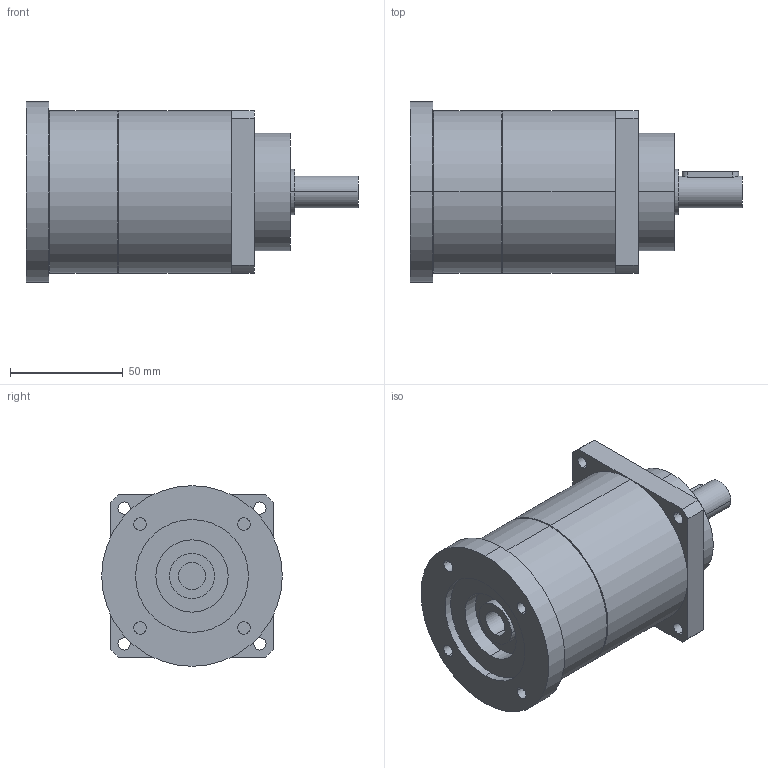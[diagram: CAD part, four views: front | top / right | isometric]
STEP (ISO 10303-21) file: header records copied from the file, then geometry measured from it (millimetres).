
FILE_DESCRIPTION(('CoCreate Modeling STEP Export'),'2;1');
FILE_NAME('GPT75_ig-9-12-16-20-25-28-35-40-50-70-100_14_B5T_12_P13.stp','2014-08-27T13:36:44',(''),(''),'CoCreate Modeling STEP processor for AP214 (Solid Model)','CoCreate Modeling 16.00C 25-Feb-2009 (C) Parametric Technology GmbH','');
FILE_SCHEMA(('AUTOMOTIVE_DESIGN { 1 0 10303 214 1 1 1 1 }'));
Length unit declared in the file: millimetre
Products named in the file (2): GPT75_ig-9-12-16-20-25-28-35-40-50-70-100_14_B5T_12_P13
Assembly tree (1 placements, depth 2):
  GPT75_ig-9-12-16-20-25-28-35-40-50-70-100_14_B5T_12_P13
    GPT75_ig-9-12-16-20-25-28-35-40-50-70-100_14_B5T_12_P13
Bounding box: 147 x 80 x 80 mm (x, y, z)
Volume: 454023.4 mm3; surface area: 44292.1 mm2
Topology: 1 solids, 1 shells, 75 faces, 178 edges, 119 vertices
Faces by surface type: cylinder 44, plane 27, cone 4
Entity records: 2281 total; most frequent: CARTESIAN_POINT 682, ORIENTED_EDGE 356, DIRECTION 280, EDGE_CURVE 178, VERTEX_POINT 119, AXIS2_PLACEMENT_3D 105, EDGE_LOOP 97, FACE_OUTER_BOUND 75
